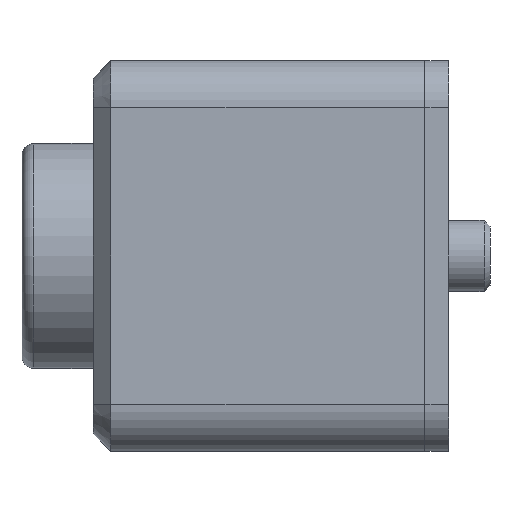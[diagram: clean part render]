
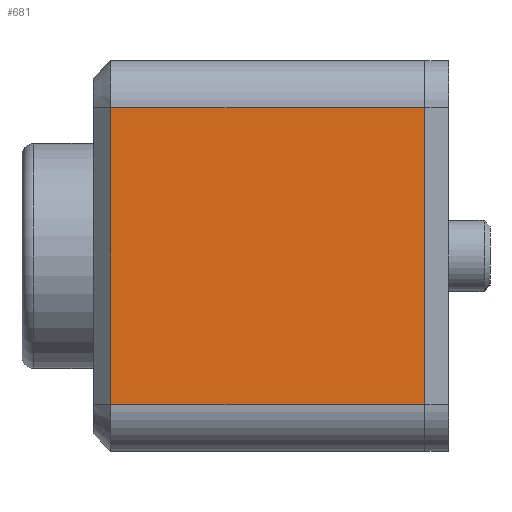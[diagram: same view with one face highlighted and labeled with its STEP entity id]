
A CAD part, front view. The second image highlights one B-rep face of the part: STEP entity #681.
In plain terms, the highlighted planar face has unit normal (0, -1, 0).
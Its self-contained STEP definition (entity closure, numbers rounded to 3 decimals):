
#681 = ADVANCED_FACE( '', ( #2002 ), #2003, .F. );
#2002 = FACE_OUTER_BOUND( '', #3354, .T. );
#2003 = PLANE( '', #3355 );
#3354 = EDGE_LOOP( '', ( #8425, #8426, #8427, #8428 ) );
#3355 = AXIS2_PLACEMENT_3D( '', #8429, #8430, #8431 );
#8425 = ORIENTED_EDGE( '', *, *, #10153, .T. );
#8426 = ORIENTED_EDGE( '', *, *, #10216, .F. );
#8427 = ORIENTED_EDGE( '', *, *, #10208, .F. );
#8428 = ORIENTED_EDGE( '', *, *, #10217, .T. );
#8429 = CARTESIAN_POINT( '', ( 27.95, -24.5, 12.5 ) );
#8430 = DIRECTION( '', ( 0., 1., 0. ) );
#8431 = DIRECTION( '', ( 0., 0., 1. ) );
#10153 = EDGE_CURVE( '', #12842, #12833, #12850, .T. );
#10208 = EDGE_CURVE( '', #12938, #12940, #12941, .T. );
#10216 = EDGE_CURVE( '', #12940, #12833, #12951, .T. );
#10217 = EDGE_CURVE( '', #12938, #12842, #12952, .T. );
#12833 = VERTEX_POINT( '', #16590 );
#12842 = VERTEX_POINT( '', #16600 );
#12850 = LINE( '', #16610, #16611 );
#12938 = VERTEX_POINT( '', #16748 );
#12940 = VERTEX_POINT( '', #16750 );
#12941 = LINE( '', #16751, #16752 );
#12951 = LINE( '', #16768, #16769 );
#12952 = LINE( '', #16770, #16771 );
#16590 = CARTESIAN_POINT( '', ( 1.5, -24.5, -12.5 ) );
#16600 = CARTESIAN_POINT( '', ( 1.5, -24.5, 12.5 ) );
#16610 = CARTESIAN_POINT( '', ( 1.5, -24.5, 17. ) );
#16611 = VECTOR( '', #19611, 1000. );
#16748 = CARTESIAN_POINT( '', ( 27.95, -24.5, 12.5 ) );
#16750 = CARTESIAN_POINT( '', ( 27.95, -24.5, -12.5 ) );
#16751 = CARTESIAN_POINT( '', ( 27.95, -24.5, 12.5 ) );
#16752 = VECTOR( '', #19676, 1000. );
#16768 = CARTESIAN_POINT( '', ( 27.95, -24.5, -12.5 ) );
#16769 = VECTOR( '', #19686, 1000. );
#16770 = CARTESIAN_POINT( '', ( 27.95, -24.5, 12.5 ) );
#16771 = VECTOR( '', #19687, 1000. );
#19611 = DIRECTION( '', ( 0., 0., -1. ) );
#19676 = DIRECTION( '', ( 0., 0., -1. ) );
#19686 = DIRECTION( '', ( -1., 0., 0. ) );
#19687 = DIRECTION( '', ( -1., 0., 0. ) );
